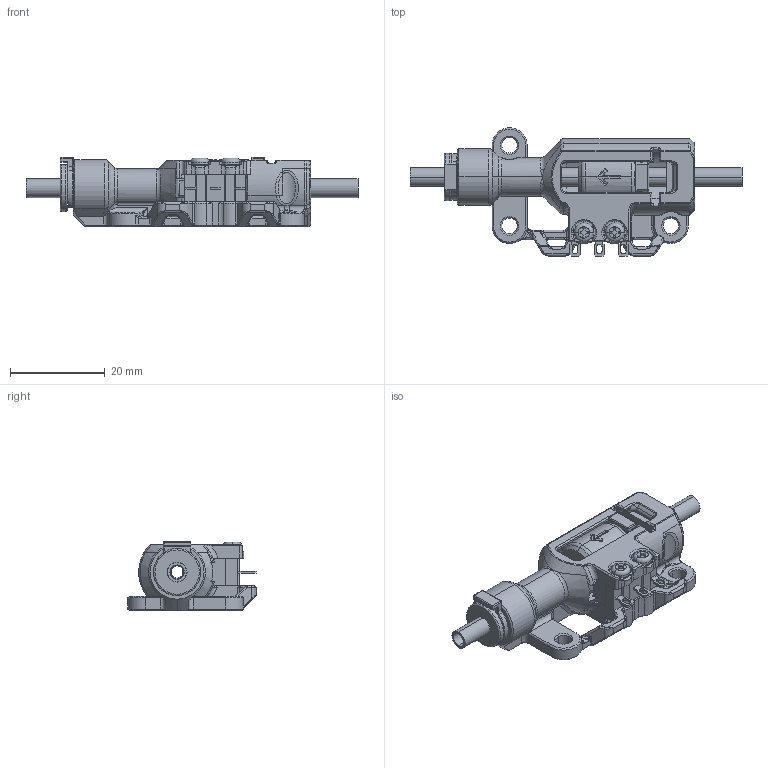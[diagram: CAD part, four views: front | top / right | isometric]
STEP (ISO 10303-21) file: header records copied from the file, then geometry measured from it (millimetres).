
FILE_DESCRIPTION (( 'STEP AP214' ), '1' );
FILE_NAME ('Belay_6mm_Collet.STEP', '2024-01-15T09:31:25', ( '' ), ( '' ), 'SwSTEP 2.0', 'SolidWorks 2022', '' );
FILE_SCHEMA (( 'AUTOMOTIVE_DESIGN' ));
Length unit declared in the file: millimetre
Products named in the file (13): Slider^Extruder Sync Sensor_6mm Collet; Belay_6mm_Collet; Sensor Housing^Extruder Sync Sensor_6mm Collet; Collet Clip Mockup_6mm; Bowden Tube - Outlet^Extruder Sync Sensor; Omron D2F Mockup_D2F-L-D3 (Operating Position); Omron D2F Plunger; Omron D2F Lever; Cover^Extruder Sync Sensor; Omron D2F Body; Collet Mockup_6mm; Bowden Tube - Inlet^Extruder Sync Sensor; pan head tapping screw_am_PHT 2x13x12.2-type I-D-N
Assembly tree (15 placements, depth 3):
  Belay_6mm_Collet
    Omron D2F Mockup_D2F-L-D3 (Operating Position)
      Omron D2F Body
      Omron D2F Plunger
      Omron D2F Lever
    Slider^Extruder Sync Sensor_6mm Collet
    Sensor Housing^Extruder Sync Sensor_6mm Collet
    Cover^Extruder Sync Sensor
    Bowden Tube - Inlet^Extruder Sync Sensor
    Bowden Tube - Outlet^Extruder Sync Sensor
    pan head tapping screw_am_PHT 2x13x12.2-type I-D-N  x2
    Collet Clip Mockup_6mm  x2
    Collet Mockup_6mm  x2
Bounding box: 70 x 27.1 x 14.55 mm (x, y, z)
Volume: 7902.2 mm3; surface area: 9842.4 mm2
Topology: 17 solids, 17 shells, 1590 faces, 3934 edges, 2316 vertices
Faces by surface type: plane 503, cylinder 402, bspline 291, cone 195, torus 191, sphere 8
Entity records: 51139 total; most frequent: CARTESIAN_POINT 19349, ORIENTED_EDGE 6922, DIRECTION 6100, EDGE_CURVE 3461, AXIS2_PLACEMENT_3D 2326, VERTEX_POINT 2067, EDGE_LOOP 1470, VECTOR 1448
